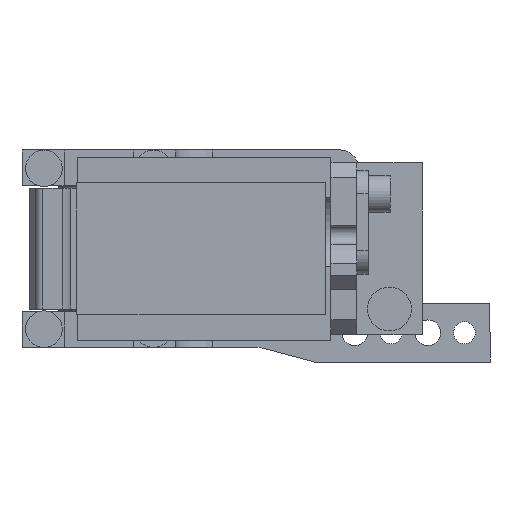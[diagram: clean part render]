
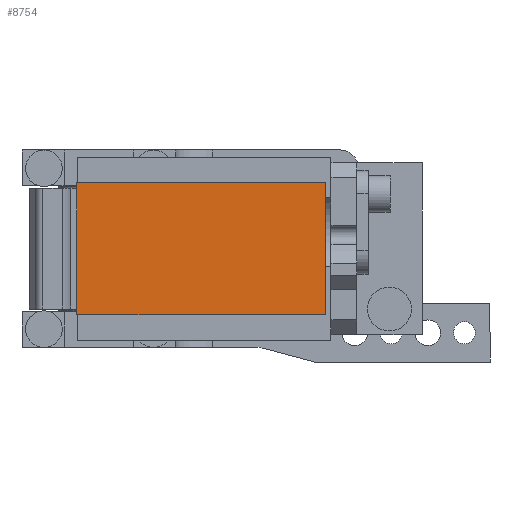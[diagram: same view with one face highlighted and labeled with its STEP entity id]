
A CAD part, front view. The second image highlights one B-rep face of the part: STEP entity #8754.
In plain terms, the highlighted planar face has unit normal (0, -1, 0).
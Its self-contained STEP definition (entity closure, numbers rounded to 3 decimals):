
#2 = EDGE_LOOP ( 'NONE', ( #5433, #2242, #11785, #11795 ) ) ;
#150 = VERTEX_POINT ( 'NONE', #7161 ) ;
#455 = CARTESIAN_POINT ( 'NONE',  ( -6., -233., 18. ) ) ;
#601 = VERTEX_POINT ( 'NONE', #3959 ) ;
#924 = DIRECTION ( 'NONE',  ( 1., 0., 0. ) ) ;
#1551 = EDGE_CURVE ( 'NONE', #12519, #10288, #4835, .T. ) ;
#2242 = ORIENTED_EDGE ( 'NONE', *, *, #13235, .T. ) ;
#3959 = CARTESIAN_POINT ( 'NONE',  ( 62., -233., 18. ) ) ;
#4329 = LINE ( 'NONE', #8777, #10480 ) ;
#4753 = DIRECTION ( 'NONE',  ( 0., 0., 1. ) ) ;
#4835 = LINE ( 'NONE', #13891, #10192 ) ;
#5004 = CARTESIAN_POINT ( 'NONE',  ( 0., -233., 0. ) ) ;
#5433 = ORIENTED_EDGE ( 'NONE', *, *, #1551, .T. ) ;
#5625 = LINE ( 'NONE', #9132, #11793 ) ;
#7001 = AXIS2_PLACEMENT_3D ( 'NONE', #5004, #13765, #7252 ) ;
#7161 = CARTESIAN_POINT ( 'NONE',  ( 62., -233., -18. ) ) ;
#7252 = DIRECTION ( 'NONE',  ( 0., 0., -1. ) ) ;
#8530 = EDGE_CURVE ( 'NONE', #601, #12519, #11596, .T. ) ;
#8754 = ADVANCED_FACE ( 'NONE', ( #12668 ), #12738, .T. ) ;
#8777 = CARTESIAN_POINT ( 'NONE',  ( -6., -233., -18. ) ) ;
#9132 = CARTESIAN_POINT ( 'NONE',  ( 62., -233., 18. ) ) ;
#10192 = VECTOR ( 'NONE', #11695, 1000. ) ;
#10288 = VERTEX_POINT ( 'NONE', #10600 ) ;
#10428 = DIRECTION ( 'NONE',  ( -1., 0., 0. ) ) ;
#10480 = VECTOR ( 'NONE', #924, 1000. ) ;
#10600 = CARTESIAN_POINT ( 'NONE',  ( -6., -233., -18. ) ) ;
#10612 = EDGE_CURVE ( 'NONE', #150, #601, #5625, .T. ) ;
#11596 = LINE ( 'NONE', #455, #11653 ) ;
#11653 = VECTOR ( 'NONE', #10428, 1000. ) ;
#11695 = DIRECTION ( 'NONE',  ( 0., 0., -1. ) ) ;
#11785 = ORIENTED_EDGE ( 'NONE', *, *, #10612, .T. ) ;
#11793 = VECTOR ( 'NONE', #4753, 1000. ) ;
#11795 = ORIENTED_EDGE ( 'NONE', *, *, #8530, .T. ) ;
#12519 = VERTEX_POINT ( 'NONE', #13464 ) ;
#12668 = FACE_OUTER_BOUND ( 'NONE', #2, .T. ) ;
#12738 = PLANE ( 'NONE',  #7001 ) ;
#13235 = EDGE_CURVE ( 'NONE', #10288, #150, #4329, .T. ) ;
#13464 = CARTESIAN_POINT ( 'NONE',  ( -6., -233., 18. ) ) ;
#13765 = DIRECTION ( 'NONE',  ( 0., -1., 0. ) ) ;
#13891 = CARTESIAN_POINT ( 'NONE',  ( -6., -233., 18. ) ) ;
